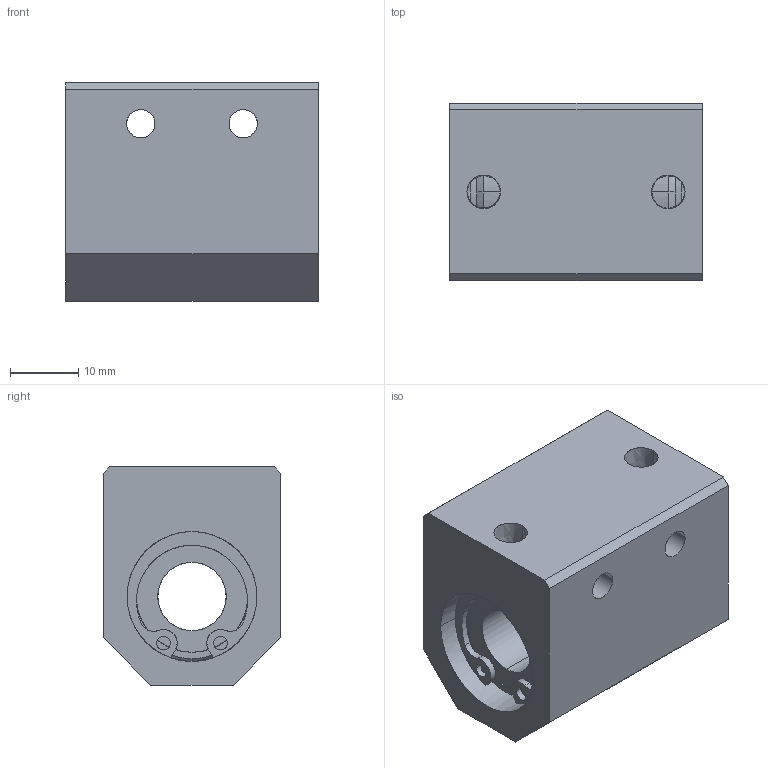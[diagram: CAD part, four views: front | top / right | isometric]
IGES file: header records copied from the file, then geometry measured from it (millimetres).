
Global section: file name: No Iges File Name specified; native system: AutoDesk Inventor R10; preprocessor: AutoDesk Inventor Iges Exporter R10; author: No Author specified; organization: No Organization specified; date: 20101213.093825; units: millimetre
Bounding box: 37 x 26 x 32 mm (x, y, z)
Surface area: 8585.1 mm2 (no closed solid volume)
Topology: 0 solids, 0 shells, 106 faces, 836 edges, 836 vertices
Faces by surface type: bspline 106
